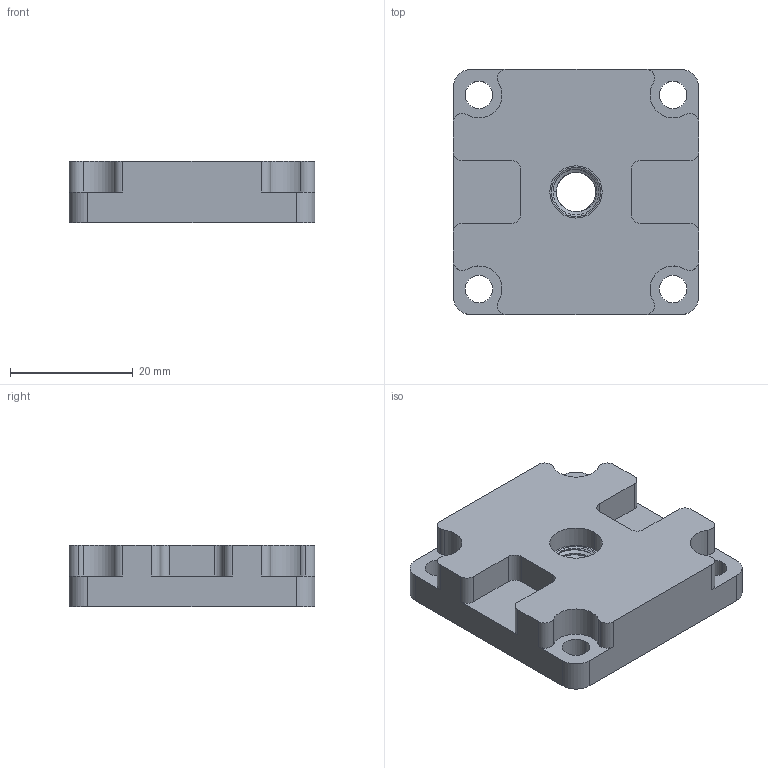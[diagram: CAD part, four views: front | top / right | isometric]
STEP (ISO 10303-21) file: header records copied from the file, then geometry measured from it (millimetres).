
FILE_DESCRIPTION (( 'STEP AP214' ), '1' );
FILE_NAME ('TS-4040-Connector-Plastic.STEP', '2024-09-13T09:16:38', ( 'Àëåêñåé' ), ( '' ), 'SwSTEP 2.0', 'SolidWorks 2022', '' );
FILE_SCHEMA (( 'AUTOMOTIVE_DESIGN' ));
Length unit declared in the file: millimetre
Products named in the file (3): TS-4040-Connector_Сквозное отверстие; TS-4040-Connector-Plastic; Гайка DIN934_M8
Assembly tree (2 placements, depth 2):
  TS-4040-Connector-Plastic
    TS-4040-Connector_Сквозное отверстие
    Гайка DIN934_M8
Bounding box: 40 x 40 x 10 mm (x, y, z)
Volume: 12918.5 mm3; surface area: 6054.6 mm2
Topology: 2 solids, 2 shells, 100 faces, 277 edges, 182 vertices
Faces by surface type: cylinder 51, plane 33, bspline 8, cone 8
Entity records: 7232 total; most frequent: CARTESIAN_POINT 4487, ORIENTED_EDGE 554, DIRECTION 500, EDGE_CURVE 277, AXIS2_PLACEMENT_3D 185, VERTEX_POINT 182, VECTOR 130, LINE 130
